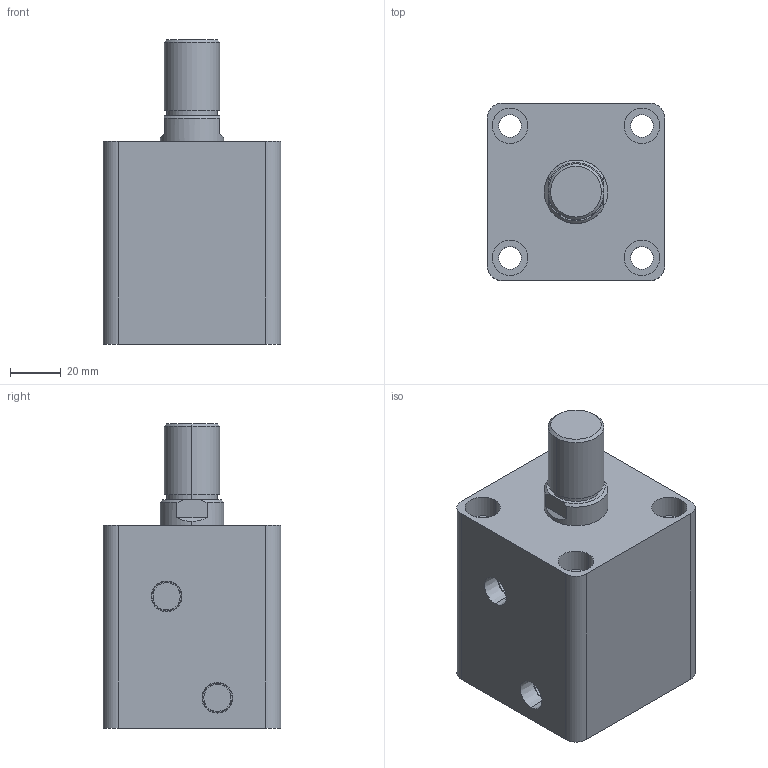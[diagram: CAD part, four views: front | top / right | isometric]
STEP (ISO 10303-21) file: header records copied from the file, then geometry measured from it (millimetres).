
FILE_DESCRIPTION (( 'STEP AP203' ), '1' );
FILE_NAME ('HTB-SD40-25W.STEP', '2019-10-07T06:49:37', ( '微软用户' ), ( '微软中国' ), 'SwSTEP 2.0', 'SolidWorks 2012', '' );
FILE_SCHEMA (( 'CONFIG_CONTROL_DESIGN' ));
Length unit declared in the file: millimetre
Products named in the file (3): HTB-SD40-25掛极; HTB-SD40-25W活塞杆; HTB-SD40-25W
Assembly tree (2 placements, depth 2):
  HTB-SD40-25W
    HTB-SD40-25掛极
    HTB-SD40-25W活塞杆
Bounding box: 70 x 70 x 120 mm (x, y, z)
Volume: 357505.4 mm3; surface area: 62402.9 mm2
Topology: 2 solids, 2 shells, 85 faces, 186 edges, 122 vertices
Faces by surface type: cylinder 44, plane 29, cone 8, torus 4
Entity records: 2709 total; most frequent: DIRECTION 466, CARTESIAN_POINT 426, ORIENTED_EDGE 372, AXIS2_PLACEMENT_3D 198, EDGE_CURVE 186, VERTEX_POINT 122, EDGE_LOOP 110, CIRCLE 108
